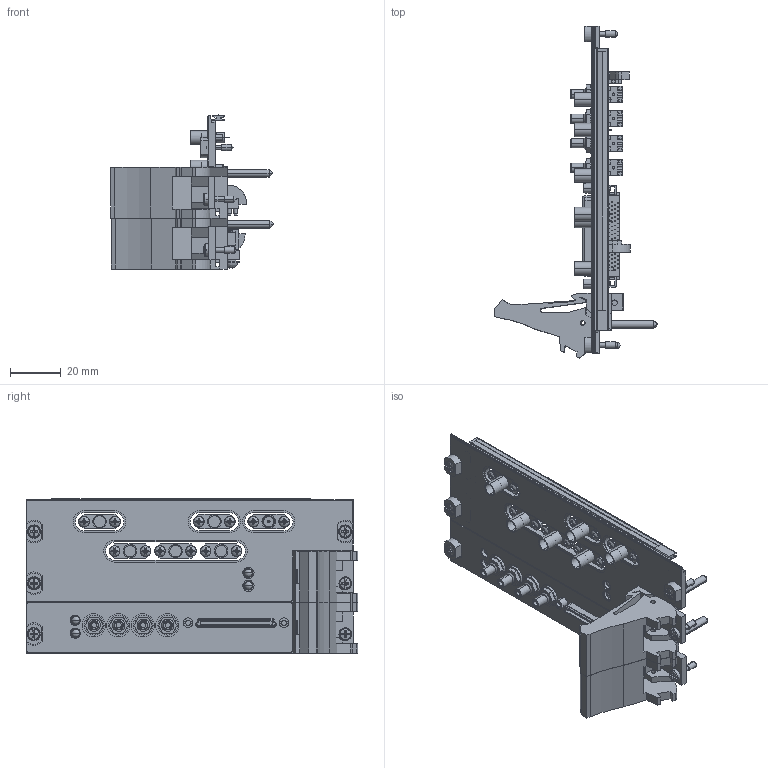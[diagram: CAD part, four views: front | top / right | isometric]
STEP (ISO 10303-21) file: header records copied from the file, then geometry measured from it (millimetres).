
FILE_DESCRIPTION((''),'2;1');
FILE_NAME('CU_PXI-5671','2009-12-31T',('jjorden'),(''),'PRO/ENGINEER BY PARAMETRIC TECHNOLOGY CORPORATION, 2006080','PRO/ENGINEER BY PARAMETRIC TECHNOLOGY CORPORATION, 2006080','');
FILE_SCHEMA(('CONFIG_CONTROL_DESIGN'));
Length unit declared in the file: inch
Products named in the file (1): CU_PXI-5671
Bounding box: 63.91 x 130.52 x 60.65 mm (x, y, z)
Volume: 41930.5 mm3; surface area: 42948.8 mm2
Topology: 11 solids, 11 shells, 3375 faces, 9023 edges, 5564 vertices
Faces by surface type: plane 2285, cylinder 680, bspline 253, cone 68, sphere 48, torus 39, extrusion 2
Entity records: 111387 total; most frequent: CARTESIAN_POINT 28354, ORIENTED_EDGE 17518, DIRECTION 16410, EDGE_CURVE 8759, VECTOR 6276, LINE 6274, VERTEX_POINT 5811, AXIS2_PLACEMENT_3D 5067
